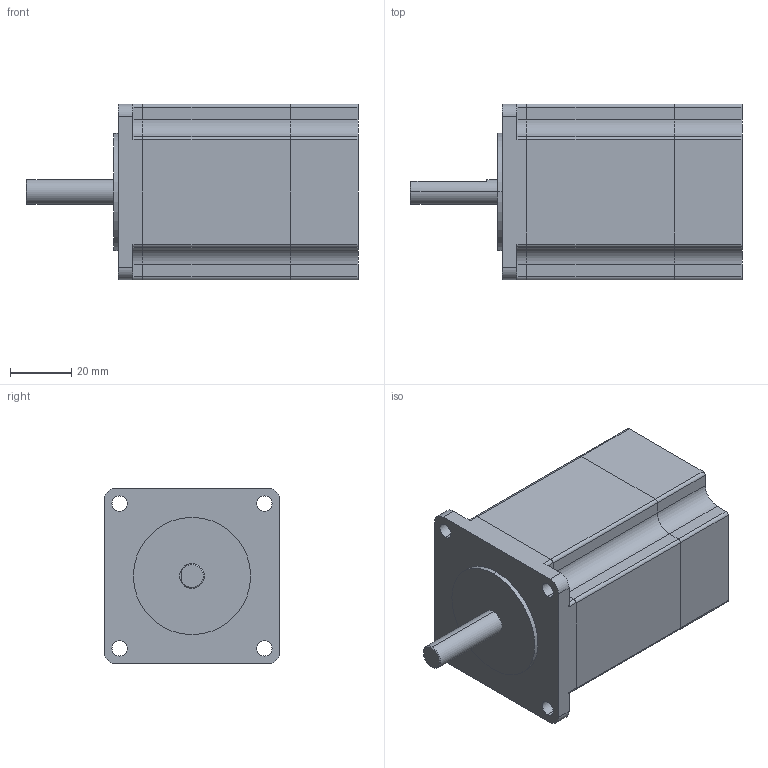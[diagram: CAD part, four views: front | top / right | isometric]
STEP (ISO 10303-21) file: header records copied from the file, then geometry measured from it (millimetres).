
FILE_DESCRIPTION (( 'STEP AP203' ), '1' );
FILE_NAME ('TM2301A50A-P1000.STEP', '2019-02-16T02:29:31', ( 'User' ), ( 'www.dadighost.com' ), 'SwSTEP 2.0', 'SolidWorks 2014', '' );
FILE_SCHEMA (( 'CONFIG_CONTROL_DESIGN' ));
Length unit declared in the file: millimetre
Products named in the file (1): TM2301A50A-P1000
Bounding box: 108 x 57.15 x 57.15 mm (x, y, z)
Volume: 226343.1 mm3; surface area: 35755.8 mm2
Topology: 3 solids, 3 shells, 105 faces, 289 edges, 192 vertices
Faces by surface type: cylinder 52, plane 50, cone 3
Entity records: 3467 total; most frequent: DIRECTION 608, CARTESIAN_POINT 593, ORIENTED_EDGE 578, EDGE_CURVE 289, AXIS2_PLACEMENT_3D 215, VERTEX_POINT 192, LINE 178, VECTOR 178
